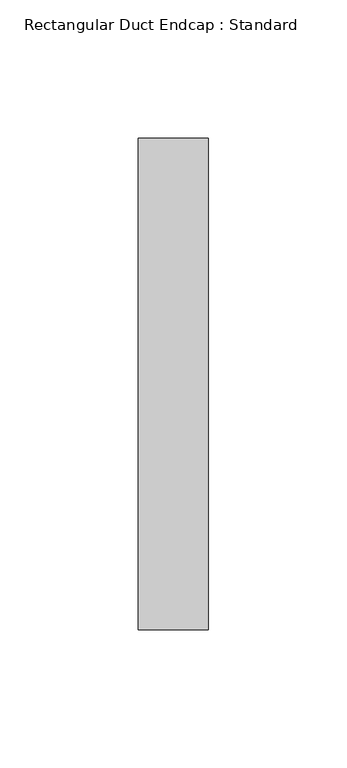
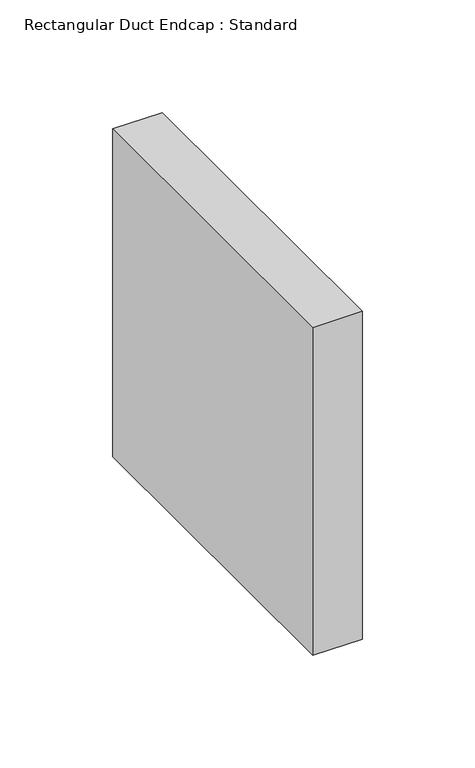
"""IFC4 building model written with IfcOpenShell, lengths in millimetres: duct fitting geometry, Rectangular Duct Endcap : Standard."""

from ifc_helpers import new_model, si_unit, frame, origin, place, context, project, spatial, polyline, outline, extrude, source, transform, mapped, element, save


def rectangular_duct_endcap_standard_257c1d85(model_context):
    return source(origin(), model_context, "Body", "SweptSolid", [
        extrude(outline(polyline([(0.0, -88.9), (0.0, 88.9), (25.4, 88.9), (25.4, -88.9), (0.0, -88.9)])), frame((0.0, 0.0, -88.9), z_axis=(0.0, 0.0, 1.0), x_axis=(1.0, 0.0, 0.0)), (0.0, 0.0, 1.0), 177.8),
        extrude(outline(polyline([(0.0, -88.9), (0.0, 88.9), (25.4, 88.9), (25.4, -88.9), (0.0, -88.9)])), frame((0.0, 0.0, -88.9), z_axis=(0.0, 0.0, 1.0), x_axis=(1.0, 0.0, 0.0)), (0.0, 0.0, 1.0), 177.8),
        extrude(outline(polyline([(0.0, -88.9), (0.0, 88.9), (25.4, 88.9), (25.4, -88.9), (0.0, -88.9)])), frame((0.0, 0.0, -88.9), z_axis=(0.0, 0.0, 1.0), x_axis=(1.0, 0.0, 0.0)), (0.0, 0.0, 1.0), 177.8),
    ])


if __name__ == "__main__":
    model = new_model("IFC4")
    model_context = context("Model", 3, world=origin())
    ifc_project = project(units=[si_unit("LENGTHUNIT", "METRE", prefix="MILLI")], contexts=[model_context])
    site = spatial("IfcSite", under=ifc_project)
    building = spatial("IfcBuilding", under=site)
    placement = place(None, origin())
    rectangular_duct_endcap_standard_shape = rectangular_duct_endcap_standard_257c1d85(model_context)
    element("IfcDuctFitting", 1, ObjectType="Rectangular Duct Endcap : Standard", at=placement, inside=building, context=model_context, shape_type="MappedRepresentation", body=[
        mapped(rectangular_duct_endcap_standard_shape, transform((0.0, 0.0, 0.0), x_axis=(1.0, 0.0, 0.0), y_axis=(0.0, 1.0, 0.0), z_axis=(0.0, 0.0, 1.0))),
    ])
    save(model, "model.ifc")
